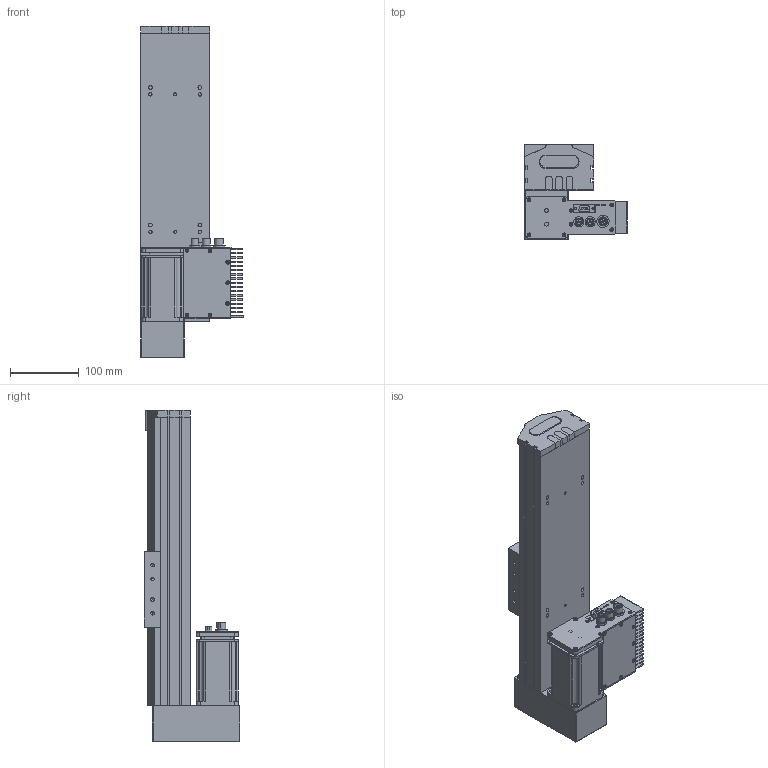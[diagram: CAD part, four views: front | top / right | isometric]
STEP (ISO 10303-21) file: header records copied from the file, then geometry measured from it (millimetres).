
FILE_DESCRIPTION (( 'STEP AP203' ), '1' );
FILE_NAME ('S 10 TSH BM S200 .STEP', '2012-09-06T13:26:22', ( 'Conseil Régional Haute-Normandie' ), ( 'Conseil Régional Haute-Normandie' ), 'SwSTEP 2.0', 'SolidWorks 2010', '' );
FILE_SCHEMA (( 'CONFIG_CONTROL_DESIGN' ));
Length unit declared in the file: millimetre
Products named in the file (25): remplir_Default; S 10  TSH BM S200 ; axe420_Default; piece_plastique remplieTSH_Default; embout_modifié; Pièce2_Default; palette tbn2; Assem1_7; T_X2_00F4_X0_le contre le moteur_5; BU41 Carte Alimentation P05_3; Colonnette_3; BU45 Carte d''axe A11_5; Moteur 60BLDC90A_3; Couvercle_3; T_X2_00F4_X0_le fond_3; Connecteur rond D10 3cts_5; Connecteur rond D12 4cts_5; Sub D 9cts 90_X2_00B_X0__3; Radiateur profil_X2_00E9_X0_ 100x25_3; Colonnette ronde_3; T_X2_00F4_X0_le Arri_X2_00E8_X0_re_5; T_X2_00F4_X0_le lat_X2_00E9_X0_rale_5; Vis TF 3 torkx_1_1; Copie de renvoie LH2_Default; Vis TF 3 torkx
Assembly tree (55 placements, depth 3):
  S 10  TSH BM S200 
    Vis TF 3 torkx  x7
    Assem1_7
      Connecteur rond D10 3cts_5  x2
      Vis TF 3 torkx_1_1  x21
      Colonnette_3  x2
      Sub D 9cts 90_X2_00B_X0__3
      Radiateur profil_X2_00E9_X0_ 100x25_3
      T_X2_00F4_X0_le Arri_X2_00E8_X0_re_5
      Colonnette ronde_3
      T_X2_00F4_X0_le fond_3
      BU45 Carte d''axe A11_5
      T_X2_00F4_X0_le lat_X2_00E9_X0_rale_5  x2
      Moteur 60BLDC90A_3
      BU41 Carte Alimentation P05_3
      T_X2_00F4_X0_le contre le moteur_5
      Connecteur rond D12 4cts_5
      Couvercle_3
    piece_plastique remplieTSH_Default
      remplir_Default  x3
      Pièce2_Default
      embout_modifié
    axe420_Default
    Copie de renvoie LH2_Default
    palette tbn2
Bounding box: 149.38 x 138.75 x 482 mm (x, y, z)
Volume: 2929623.5 mm3; surface area: 525522.9 mm2
Topology: 53 solids, 53 shells, 1954 faces, 4978 edges, 3238 vertices
Faces by surface type: plane 920, cylinder 863, cone 164, sphere 4, torus 3
Entity records: 38201 total; most frequent: CARTESIAN_POINT 6402, DIRECTION 6213, ORIENTED_EDGE 5648, EDGE_CURVE 2824, AXIS2_PLACEMENT_3D 2274, VERTEX_POINT 1850, LINE 1665, VECTOR 1665
